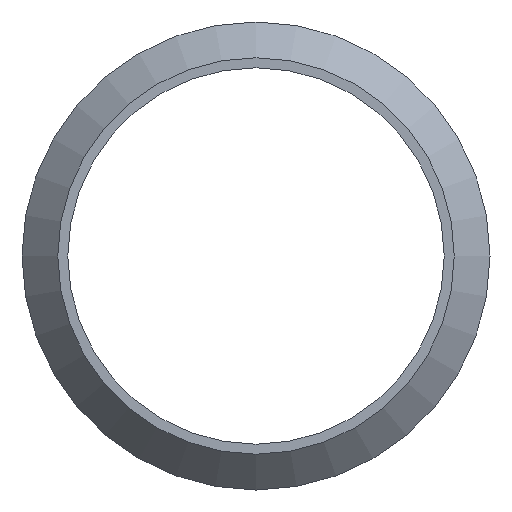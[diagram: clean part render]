
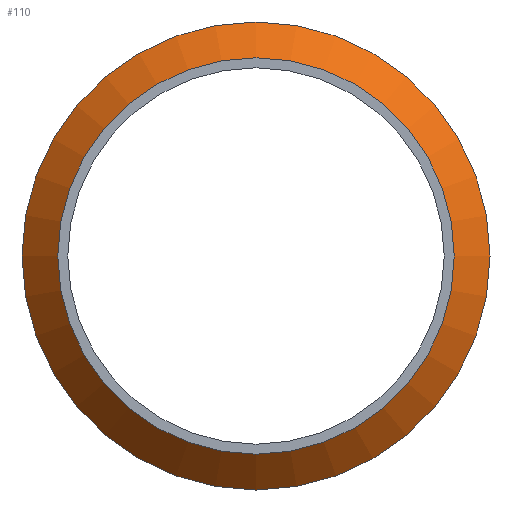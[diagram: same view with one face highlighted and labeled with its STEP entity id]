
A CAD part, front view. The second image highlights one B-rep face of the part: STEP entity #110.
In plain terms, the highlighted conical face has half-angle 45 degrees and reference radius 15.1 mm.
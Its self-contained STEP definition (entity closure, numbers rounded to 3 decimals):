
#24=FACE_OUTER_BOUND('',#31,.T.);
#31=EDGE_LOOP('',(#91,#92,#93,#94,#95));
#37=LINE('',#209,#41);
#41=VECTOR('',#175,15.1);
#46=CIRCLE('',#138,16.35);
#47=CIRCLE('',#139,16.35);
#50=CIRCLE('',#144,13.85);
#56=VERTEX_POINT('',#197);
#57=VERTEX_POINT('',#199);
#60=VERTEX_POINT('',#208);
#68=EDGE_CURVE('',#57,#56,#46,.T.);
#69=EDGE_CURVE('',#56,#57,#47,.T.);
#72=EDGE_CURVE('',#57,#60,#37,.T.);
#73=EDGE_CURVE('',#60,#60,#50,.T.);
#91=ORIENTED_EDGE('',*,*,#68,.T.);
#92=ORIENTED_EDGE('',*,*,#69,.T.);
#93=ORIENTED_EDGE('',*,*,#72,.T.);
#94=ORIENTED_EDGE('',*,*,#73,.T.);
#95=ORIENTED_EDGE('',*,*,#72,.F.);
#106=CONICAL_SURFACE('',#143,15.1,0.785);
#110=ADVANCED_FACE('',(#24),#106,.T.);
#138=AXIS2_PLACEMENT_3D('',#200,#163,#164);
#139=AXIS2_PLACEMENT_3D('',#201,#165,#166);
#143=AXIS2_PLACEMENT_3D('',#207,#173,#174);
#144=AXIS2_PLACEMENT_3D('',#210,#176,#177);
#163=DIRECTION('center_axis',(0.,-1.,0.));
#164=DIRECTION('ref_axis',(1.,0.,0.));
#165=DIRECTION('center_axis',(0.,-1.,0.));
#166=DIRECTION('ref_axis',(1.,0.,0.));
#173=DIRECTION('center_axis',(0.,1.,0.));
#174=DIRECTION('ref_axis',(1.,0.,0.));
#175=DIRECTION('',(0.707,-0.707,0.));
#176=DIRECTION('center_axis',(0.,1.,0.));
#177=DIRECTION('ref_axis',(1.,0.,0.));
#197=CARTESIAN_POINT('',(16.35,-1.75,0.));
#199=CARTESIAN_POINT('',(-16.35,-1.75,0.));
#200=CARTESIAN_POINT('Origin',(0.,-1.75,0.));
#201=CARTESIAN_POINT('Origin',(0.,-1.75,0.));
#207=CARTESIAN_POINT('Origin',(0.,-3.,0.));
#208=CARTESIAN_POINT('',(-13.85,-4.25,0.));
#209=CARTESIAN_POINT('',(-15.1,-3.,0.));
#210=CARTESIAN_POINT('Origin',(0.,-4.25,0.));
